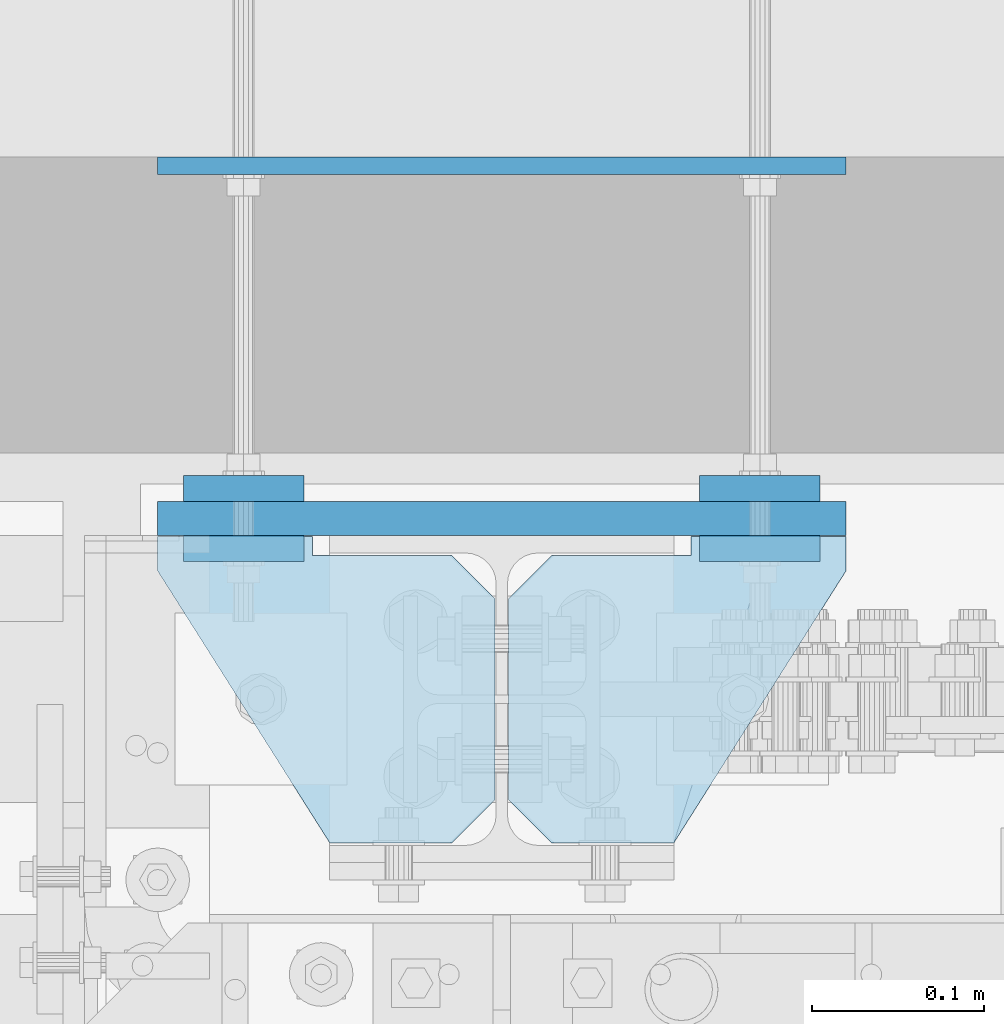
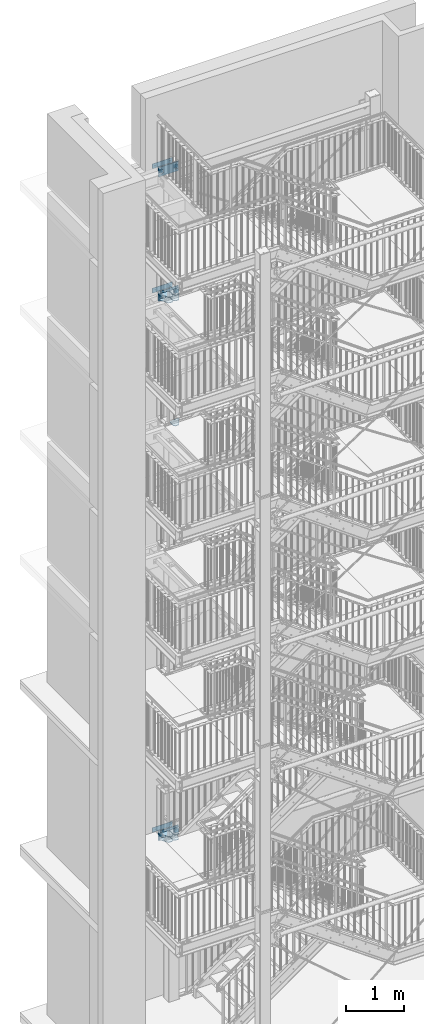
# One storey, part 189 of 831: 27 plates, 42 openings.
"""IFC2X3 building model written with IfcOpenShell, lengths in millimetres."""

from ifc_helpers import new_model, entity, si_unit, converted_unit, frame, frame_2d, origin, origin_with_axes, origin_2d_with_axis, place, context, project, spatial, polyline, circle, outline, extrude, material, layer, layer_set, element, save


model = new_model("IFC2X3")

# Units and contexts
model_context = context("Model", 3, precision=1e-09, world=origin_with_axes())
ifc_project = project(units=[si_unit("LENGTHUNIT", "METRE", prefix="MILLI"), si_unit("AREAUNIT", "SQUARE_METRE"), si_unit("VOLUMEUNIT", "CUBIC_METRE"), converted_unit("PLANEANGLEUNIT", "DEGREE", entity("IfcPlaneAngleMeasure", 0.01745329), si_unit("PLANEANGLEUNIT", "RADIAN"), dimensions=[0, 0, 0, 0, 0, 0, 0])], contexts=[model_context])

# Site, building, storey
site_placement = place(None, origin_with_axes())
site = spatial("IfcSite", under=ifc_project, at=site_placement, Name="Site", CompositionType="ELEMENT")
building_placement = place(site_placement, origin_with_axes())
building = spatial("IfcBuilding", under=site, at=building_placement, Name="Struktur 1", CompositionType="ELEMENT")
storey_placement = place(building_placement, origin_with_axes())
storey = spatial("IfcBuildingStorey", under=building, at=storey_placement, Name="Default Storey", CompositionType="ELEMENT", Elevation=0.0)

# Plate, openings
ifc_material = material(Name="S235JR")
ifc_layer_1 = layer(ifc_material, 10.0)
ifc_layer_set_1 = layer_set([ifc_layer_1], Name="S235JR")
plate_1_placement = place(None, frame((5056.713402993, 7611.236971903, 12449.000000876), z_axis=(0.0, 0.0, -1.0), x_axis=(0.0, -1.0, 0.0)))
plate_1 = element("IfcPlate", 1, at=plate_1_placement, inside=storey, material=ifc_layer_set_1, Name="-", ObjectType="-", context=model_context, shape_type="SweptSolid", body=[
    extrude(outline(polyline([(0.0, 0.0), (20.0, 0.0), (178.0, 100.0), (178.0, 196.0), (11.0, 196.0), (11.0, 90.0), (0.0, 90.0), (0.0, 0.0)])), origin_with_axes(), (0.0, 0.0, -1.0), 10.0),
])
opening_1_placement = place(plate_1_placement, frame((11.0, 196.0, 0.01), z_axis=(0.0, 0.0, 1.0), x_axis=(0.0, -1.0, 0.0)))
element("IfcOpeningElement", 2, at=opening_1_placement, cuts=plate_1, ObjectType="Opening", context=model_context, shape_type="SweptSolid", body=[
    extrude(outline(polyline([(0.0, 0.0), (25.0, 0.0), (0.0, 25.0), (0.0, 0.0)])), origin(), (0.0, 0.0, -1.0), 10.02),
])
opening_2_placement = place(plate_1_placement, frame((178.0, 196.0, 0.01), z_axis=(0.0, 0.0, 1.0), x_axis=(-1.0, 0.0, 0.0)))
element("IfcOpeningElement", 3, at=opening_2_placement, cuts=plate_1, ObjectType="Opening", context=model_context, shape_type="SweptSolid", body=[
    extrude(outline(polyline([(0.0, 0.0), (25.0, 0.0), (0.0, 25.0), (0.0, 0.0)])), origin(), (0.0, 0.0, -1.0), 10.02),
])

# Plate, opening
ifc_layer_2 = layer(ifc_material, 15.0)
ifc_layer_set_2 = layer_set([ifc_layer_2], Name="S235JR")
plate_2_placement = place(None, frame((5006.713403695, 7646.736971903, 15149.0), z_axis=(0.0, 1.0, 0.0), x_axis=(-1.0, 0.0, 0.0)))
plate_2 = element("IfcPlate", 4, at=plate_2_placement, inside=storey, material=ifc_layer_set_2, Name="-", ObjectType="-", context=model_context, shape_type="SweptSolid", body=[
    extrude(outline(polyline([(-35.0, -35.0), (35.0, -35.0), (35.0, 35.0), (-35.0, 35.0), (-35.0, -35.0)])), origin_with_axes(), (0.0, 0.0, -1.0), 15.0),
])
opening_3_placement = place(plate_2_placement, frame((-7.001000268, 0.0, 0.5), z_axis=(0.0, 0.0, 1.0), x_axis=(1.0, 0.0, 0.0)))
element("IfcOpeningElement", 5, at=opening_3_placement, cuts=plate_2, ObjectType="Opening", context=model_context, shape_type="SweptSolid", body=[
    extrude(circle(Radius=7.001, at=frame_2d((7.001, 0.0), x_axis=(1.0, 0.0))), origin(), (0.0, 0.0, -1.0), 16.0),
])

plate_3_placement = place(None, frame((5006.713403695, 7611.736971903, 15149.0), z_axis=(0.0, 1.0, 0.0), x_axis=(-1.0, 0.0, 0.0)))
plate_3 = element("IfcPlate", 6, at=plate_3_placement, inside=storey, material=ifc_layer_set_2, Name="-", ObjectType="-", context=model_context, shape_type="SweptSolid", body=[
    extrude(outline(polyline([(-35.0, -35.0), (35.0, -35.0), (35.0, 35.0), (-35.0, 35.0), (-35.0, -35.0)])), origin_with_axes(), (0.0, 0.0, -1.0), 15.0),
])
opening_4_placement = place(plate_3_placement, frame((-7.001000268, 0.0, 0.5), z_axis=(0.0, 0.0, 1.0), x_axis=(1.0, 0.0, 0.0)))
element("IfcOpeningElement", 7, at=opening_4_placement, cuts=plate_3, ObjectType="Opening", context=model_context, shape_type="SweptSolid", body=[
    extrude(circle(Radius=7.001, at=frame_2d((7.001, 0.0), x_axis=(1.0, 0.0))), origin(), (0.0, 0.0, -1.0), 16.0),
])

# Plate, openings
plate_4_placement = place(None, frame((4856.713402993, 7831.736971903, 15149.000000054), z_axis=(0.0, -1.0, 0.0), x_axis=(1.0, 0.0, 0.0)))
plate_4 = element("IfcPlate", 8, at=plate_4_placement, inside=storey, material=ifc_layer_set_1, Name="-", ObjectType="-", context=model_context, shape_type="SweptSolid", body=[
    extrude(outline(polyline([(-200.0, -50.0), (200.0, -50.0), (200.0, 50.0), (-200.0, 50.0), (-200.0, -50.0)])), origin_with_axes(), (0.0, 0.0, 1.0), 10.0),
])
opening_5_placement = place(plate_4_placement, frame((-3.4e-08, -5.4e-08, -0.5), z_axis=(0.0, 0.0, 1.0), x_axis=(1.0, 0.0, 0.0)))
element("IfcOpeningElement", 9, at=opening_5_placement, cuts=plate_4, ObjectType="Opening", context=model_context, shape_type="SweptSolid", body=[
    extrude(circle(Radius=7.001, at=frame_2d((150.0, 0.0), x_axis=(1.0, 0.0))), origin(), (0.0, 0.0, 1.0), 11.0),
])
opening_6_placement = place(plate_4_placement, frame((-3.4e-08, -5.4e-08, -0.5), z_axis=(0.0, 0.0, 1.0), x_axis=(1.0, 0.0, 0.0)))
element("IfcOpeningElement", 10, at=opening_6_placement, cuts=plate_4, ObjectType="Opening", context=model_context, shape_type="SweptSolid", body=[
    extrude(circle(Radius=7.001, at=frame_2d((-150.0, 0.0), x_axis=(1.0, 0.0))), origin(), (0.0, 0.0, 1.0), 11.0),
])

# Plate, opening
plate_5_placement = place(None, frame((4706.71340296, 7646.736971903, 15149.0), z_axis=(0.0, -1.0, 0.0), x_axis=(1.0, 0.0, 0.0)))
plate_5 = element("IfcPlate", 11, at=plate_5_placement, inside=storey, material=ifc_layer_set_2, Name="-", ObjectType="-", context=model_context, shape_type="SweptSolid", body=[
    extrude(outline(polyline([(-35.0, -35.0), (35.0, -35.0), (35.0, 35.0), (-35.0, 35.0), (-35.0, -35.0)])), origin_with_axes(), (0.0, 0.0, 1.0), 15.0),
])
opening_7_placement = place(plate_5_placement, frame((-2.68e-07, 0.0, -0.5), z_axis=(0.0, 0.0, 1.0), x_axis=(1.0, 0.0, 0.0)))
element("IfcOpeningElement", 12, at=opening_7_placement, cuts=plate_5, ObjectType="Opening", context=model_context, shape_type="SweptSolid", body=[
    extrude(circle(Radius=7.001, at=origin_2d_with_axis()), origin(), (0.0, 0.0, 1.0), 16.0),
])

plate_6_placement = place(None, frame((4706.71340296, 7611.736971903, 15149.0), z_axis=(0.0, -1.0, 0.0), x_axis=(1.0, 0.0, 0.0)))
plate_6 = element("IfcPlate", 13, at=plate_6_placement, inside=storey, material=ifc_layer_set_2, Name="-", ObjectType="-", context=model_context, shape_type="SweptSolid", body=[
    extrude(outline(polyline([(-35.0, -35.0), (35.0, -35.0), (35.0, 35.0), (-35.0, 35.0), (-35.0, -35.0)])), origin_with_axes(), (0.0, 0.0, 1.0), 15.0),
])
opening_8_placement = place(plate_6_placement, frame((-2.68e-07, 0.0, -0.5), z_axis=(0.0, 0.0, 1.0), x_axis=(1.0, 0.0, 0.0)))
element("IfcOpeningElement", 14, at=opening_8_placement, cuts=plate_6, ObjectType="Opening", context=model_context, shape_type="SweptSolid", body=[
    extrude(circle(Radius=7.001, at=origin_2d_with_axis()), origin(), (0.0, 0.0, 1.0), 16.0),
])

# Plate, openings
plate_7_placement = place(None, frame((5056.713402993, 7611.236971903, 15084.000000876), z_axis=(0.0, 0.0, -1.0), x_axis=(0.0, -1.0, 0.0)))
plate_7 = element("IfcPlate", 15, at=plate_7_placement, inside=storey, material=ifc_layer_set_1, Name="-", ObjectType="-", context=model_context, shape_type="SweptSolid", body=[
    extrude(outline(polyline([(0.0, 0.0), (20.0, 0.0), (178.0, 100.0), (178.0, 196.0), (11.0, 196.0), (11.0, 90.0), (0.0, 90.0), (0.0, 0.0)])), origin_with_axes(), (0.0, 0.0, -1.0), 10.0),
])
opening_9_placement = place(plate_7_placement, frame((11.0, 196.0, 0.01), z_axis=(0.0, 0.0, 1.0), x_axis=(0.0, -1.0, 0.0)))
element("IfcOpeningElement", 16, at=opening_9_placement, cuts=plate_7, ObjectType="Opening", context=model_context, shape_type="SweptSolid", body=[
    extrude(outline(polyline([(0.0, 0.0), (25.0, 0.0), (0.0, 25.0), (0.0, 0.0)])), origin(), (0.0, 0.0, -1.0), 10.02),
])
opening_10_placement = place(plate_7_placement, frame((178.0, 196.0, 0.01), z_axis=(0.0, 0.0, 1.0), x_axis=(-1.0, 0.0, 0.0)))
element("IfcOpeningElement", 17, at=opening_10_placement, cuts=plate_7, ObjectType="Opening", context=model_context, shape_type="SweptSolid", body=[
    extrude(outline(polyline([(0.0, 0.0), (25.0, 0.0), (0.0, 25.0), (0.0, 0.0)])), origin(), (0.0, 0.0, -1.0), 10.02),
])

plate_8_placement = place(None, frame((5056.713402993, 7611.236971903, 15204.000000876), z_axis=(0.0, 0.0, -1.0), x_axis=(0.0, -1.0, 0.0)))
plate_8 = element("IfcPlate", 18, at=plate_8_placement, inside=storey, material=ifc_layer_set_1, Name="-", ObjectType="-", context=model_context, shape_type="SweptSolid", body=[
    extrude(outline(polyline([(0.0, 0.0), (20.0, 0.0), (178.0, 100.0), (178.0, 196.0), (11.0, 196.0), (11.0, 90.0), (0.0, 90.0), (0.0, 0.0)])), origin_with_axes(), (0.0, 0.0, -1.0), 10.0),
])
opening_11_placement = place(plate_8_placement, frame((11.0, 196.0, 0.01), z_axis=(0.0, 0.0, 1.0), x_axis=(0.0, -1.0, 0.0)))
element("IfcOpeningElement", 19, at=opening_11_placement, cuts=plate_8, ObjectType="Opening", context=model_context, shape_type="SweptSolid", body=[
    extrude(outline(polyline([(0.0, 0.0), (25.0, 0.0), (0.0, 25.0), (0.0, 0.0)])), origin(), (0.0, 0.0, -1.0), 10.02),
])
opening_12_placement = place(plate_8_placement, frame((178.0, 196.0, 0.01), z_axis=(0.0, 0.0, 1.0), x_axis=(-1.0, 0.0, 0.0)))
element("IfcOpeningElement", 20, at=opening_12_placement, cuts=plate_8, ObjectType="Opening", context=model_context, shape_type="SweptSolid", body=[
    extrude(outline(polyline([(0.0, 0.0), (25.0, 0.0), (0.0, 25.0), (0.0, 0.0)])), origin(), (0.0, 0.0, -1.0), 10.02),
])

plate_9_placement = place(None, frame((4656.713402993, 7611.236971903, 15084.000000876), z_axis=(0.0, 0.0, 1.0), x_axis=(0.0, -1.0, 0.0)))
plate_9 = element("IfcPlate", 21, at=plate_9_placement, inside=storey, material=ifc_layer_set_1, Name="-", ObjectType="-", context=model_context, shape_type="SweptSolid", body=[
    extrude(outline(polyline([(0.0, 0.0), (20.0, 0.0), (178.0, 100.0), (178.0, 196.0), (11.0, 196.0), (11.0, 90.0), (0.0, 90.0), (0.0, 0.0)])), origin_with_axes(), (0.0, 0.0, 1.0), 10.0),
])
opening_13_placement = place(plate_9_placement, frame((0.0, 0.0, -0.01), z_axis=(0.0, 0.0, 1.0), x_axis=(1.0, 0.0, 0.0)))
element("IfcOpeningElement", 22, at=opening_13_placement, cuts=plate_9, ObjectType="Opening", context=model_context, shape_type="SweptSolid", body=[
    extrude(outline(polyline([(11.0, 196.0), (11.0, 171.0), (36.0, 196.0), (11.0, 196.0)])), origin(), (0.0, 0.0, 1.0), 10.02),
])
opening_14_placement = place(plate_9_placement, frame((0.0, 0.0, -0.01), z_axis=(0.0, 0.0, 1.0), x_axis=(1.0, 0.0, 0.0)))
element("IfcOpeningElement", 23, at=opening_14_placement, cuts=plate_9, ObjectType="Opening", context=model_context, shape_type="SweptSolid", body=[
    extrude(outline(polyline([(178.0, 196.0), (153.0, 196.0), (178.0, 171.0), (178.0, 196.0)])), origin(), (0.0, 0.0, 1.0), 10.02),
])

plate_10_placement = place(None, frame((4656.713402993, 7611.236971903, 15204.000000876), z_axis=(0.0, 0.0, 1.0), x_axis=(0.0, -1.0, 0.0)))
plate_10 = element("IfcPlate", 24, at=plate_10_placement, inside=storey, material=ifc_layer_set_1, Name="-", ObjectType="-", context=model_context, shape_type="SweptSolid", body=[
    extrude(outline(polyline([(0.0, 0.0), (20.0, 0.0), (178.0, 100.0), (178.0, 196.0), (11.0, 196.0), (11.0, 90.0), (0.0, 90.0), (0.0, 0.0)])), origin_with_axes(), (0.0, 0.0, 1.0), 10.0),
])
opening_15_placement = place(plate_10_placement, frame((0.0, 0.0, -0.01), z_axis=(0.0, 0.0, 1.0), x_axis=(1.0, 0.0, 0.0)))
element("IfcOpeningElement", 25, at=opening_15_placement, cuts=plate_10, ObjectType="Opening", context=model_context, shape_type="SweptSolid", body=[
    extrude(outline(polyline([(11.0, 196.0), (11.0, 171.0), (36.0, 196.0), (11.0, 196.0)])), origin(), (0.0, 0.0, 1.0), 10.02),
])
opening_16_placement = place(plate_10_placement, frame((0.0, 0.0, -0.01), z_axis=(0.0, 0.0, 1.0), x_axis=(1.0, 0.0, 0.0)))
element("IfcOpeningElement", 26, at=opening_16_placement, cuts=plate_10, ObjectType="Opening", context=model_context, shape_type="SweptSolid", body=[
    extrude(outline(polyline([(178.0, 196.0), (153.0, 196.0), (178.0, 171.0), (178.0, 196.0)])), origin(), (0.0, 0.0, 1.0), 10.02),
])

ifc_layer_3 = layer(ifc_material, 20.0)
ifc_layer_set_3 = layer_set([ifc_layer_3], Name="S235JR")
plate_11_placement = place(None, frame((4856.713402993, 7631.736971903, 15149.000000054), z_axis=(0.0, -1.0, 0.0), x_axis=(1.0, 0.0, 0.0)))
plate_11 = element("IfcPlate", 27, at=plate_11_placement, inside=storey, material=ifc_layer_set_3, Name="-", ObjectType="-", context=model_context, shape_type="SweptSolid", body=[
    extrude(outline(polyline([(-200.0, -100.0), (200.0, -100.0), (200.0, 100.0), (-200.0, 100.0), (-200.0, -100.0)])), origin_with_axes(), (0.0, 0.0, 1.0), 20.0),
])
opening_17_placement = place(plate_11_placement, frame((-3.4e-08, -5.4e-08, -0.5), z_axis=(0.0, 0.0, 1.0), x_axis=(1.0, 0.0, 0.0)))
element("IfcOpeningElement", 28, at=opening_17_placement, cuts=plate_11, ObjectType="Opening", context=model_context, shape_type="SweptSolid", body=[
    extrude(circle(Radius=20.001, at=frame_2d((150.0, 0.0), x_axis=(1.0, 0.0))), origin(), (0.0, 0.0, 1.0), 21.0),
])
opening_18_placement = place(plate_11_placement, frame((-3.4e-08, -5.4e-08, -0.5), z_axis=(0.0, 0.0, 1.0), x_axis=(1.0, 0.0, 0.0)))
element("IfcOpeningElement", 29, at=opening_18_placement, cuts=plate_11, ObjectType="Opening", context=model_context, shape_type="SweptSolid", body=[
    extrude(circle(Radius=20.001, at=frame_2d((-150.0, 0.0), x_axis=(1.0, 0.0))), origin(), (0.0, 0.0, 1.0), 21.0),
])

# Plate, opening
plate_12_placement = place(None, frame((4706.71340296, 7611.736971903, 17769.0), z_axis=(0.0, -1.0, 0.0), x_axis=(1.0, 0.0, 0.0)))
plate_12 = element("IfcPlate", 30, at=plate_12_placement, inside=storey, material=ifc_layer_set_2, Name="-", ObjectType="-", context=model_context, shape_type="SweptSolid", body=[
    extrude(outline(polyline([(-35.0, -35.0), (35.0, -35.0), (35.0, 35.0), (-35.0, 35.0), (-35.0, -35.0)])), origin_with_axes(), (0.0, 0.0, 1.0), 15.0),
])
opening_19_placement = place(plate_12_placement, frame((-2.68e-07, 0.0, -0.5), z_axis=(0.0, 0.0, 1.0), x_axis=(1.0, 0.0, 0.0)))
element("IfcOpeningElement", 31, at=opening_19_placement, cuts=plate_12, ObjectType="Opening", context=model_context, shape_type="SweptSolid", body=[
    extrude(circle(Radius=7.001, at=origin_2d_with_axis()), origin(), (0.0, 0.0, 1.0), 16.0),
])

plate_13_placement = place(None, frame((4706.71340296, 7646.736971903, 17769.0), z_axis=(0.0, -1.0, 0.0), x_axis=(1.0, 0.0, 0.0)))
plate_13 = element("IfcPlate", 32, at=plate_13_placement, inside=storey, material=ifc_layer_set_2, Name="-", ObjectType="-", context=model_context, shape_type="SweptSolid", body=[
    extrude(outline(polyline([(-35.0, -35.0), (35.0, -35.0), (35.0, 35.0), (-35.0, 35.0), (-35.0, -35.0)])), origin_with_axes(), (0.0, 0.0, 1.0), 15.0),
])
opening_20_placement = place(plate_13_placement, frame((-2.68e-07, 0.0, -0.5), z_axis=(0.0, 0.0, 1.0), x_axis=(1.0, 0.0, 0.0)))
element("IfcOpeningElement", 33, at=opening_20_placement, cuts=plate_13, ObjectType="Opening", context=model_context, shape_type="SweptSolid", body=[
    extrude(circle(Radius=7.001, at=origin_2d_with_axis()), origin(), (0.0, 0.0, 1.0), 16.0),
])

# Plate, openings
plate_14_placement = place(None, frame((4856.713402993, 7831.736971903, 17769.000000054), z_axis=(0.0, -1.0, 0.0), x_axis=(1.0, 0.0, 0.0)))
plate_14 = element("IfcPlate", 34, at=plate_14_placement, inside=storey, material=ifc_layer_set_1, Name="-", ObjectType="-", context=model_context, shape_type="SweptSolid", body=[
    extrude(outline(polyline([(-200.0, -50.0), (200.0, -50.0), (200.0, 50.0), (-200.0, 50.0), (-200.0, -50.0)])), origin_with_axes(), (0.0, 0.0, 1.0), 10.0),
])
opening_21_placement = place(plate_14_placement, frame((-3.4e-08, -5.4e-08, -0.5), z_axis=(0.0, 0.0, 1.0), x_axis=(1.0, 0.0, 0.0)))
element("IfcOpeningElement", 35, at=opening_21_placement, cuts=plate_14, ObjectType="Opening", context=model_context, shape_type="SweptSolid", body=[
    extrude(circle(Radius=7.001, at=frame_2d((150.0, 0.0), x_axis=(1.0, 0.0))), origin(), (0.0, 0.0, 1.0), 11.0),
])
opening_22_placement = place(plate_14_placement, frame((-3.4e-08, -5.4e-08, -0.5), z_axis=(0.0, 0.0, 1.0), x_axis=(1.0, 0.0, 0.0)))
element("IfcOpeningElement", 36, at=opening_22_placement, cuts=plate_14, ObjectType="Opening", context=model_context, shape_type="SweptSolid", body=[
    extrude(circle(Radius=7.001, at=frame_2d((-150.0, 0.0), x_axis=(1.0, 0.0))), origin(), (0.0, 0.0, 1.0), 11.0),
])

# Plate, opening
plate_15_placement = place(None, frame((5006.713403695, 7611.736971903, 17769.0), z_axis=(0.0, 1.0, 0.0), x_axis=(-1.0, 0.0, 0.0)))
plate_15 = element("IfcPlate", 37, at=plate_15_placement, inside=storey, material=ifc_layer_set_2, Name="-", ObjectType="-", context=model_context, shape_type="SweptSolid", body=[
    extrude(outline(polyline([(-35.0, -35.0), (35.0, -35.0), (35.0, 35.0), (-35.0, 35.0), (-35.0, -35.0)])), origin_with_axes(), (0.0, 0.0, -1.0), 15.0),
])
opening_23_placement = place(plate_15_placement, frame((-7.001000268, 0.0, 0.5), z_axis=(0.0, 0.0, 1.0), x_axis=(1.0, 0.0, 0.0)))
element("IfcOpeningElement", 38, at=opening_23_placement, cuts=plate_15, ObjectType="Opening", context=model_context, shape_type="SweptSolid", body=[
    extrude(circle(Radius=7.001, at=frame_2d((7.001, 0.0), x_axis=(1.0, 0.0))), origin(), (0.0, 0.0, -1.0), 16.0),
])

plate_16_placement = place(None, frame((5006.713403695, 7646.736971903, 17769.0), z_axis=(0.0, 1.0, 0.0), x_axis=(-1.0, 0.0, 0.0)))
plate_16 = element("IfcPlate", 39, at=plate_16_placement, inside=storey, material=ifc_layer_set_2, Name="-", ObjectType="-", context=model_context, shape_type="SweptSolid", body=[
    extrude(outline(polyline([(-35.0, -35.0), (35.0, -35.0), (35.0, 35.0), (-35.0, 35.0), (-35.0, -35.0)])), origin_with_axes(), (0.0, 0.0, -1.0), 15.0),
])
opening_24_placement = place(plate_16_placement, frame((-7.001000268, 0.0, 0.5), z_axis=(0.0, 0.0, 1.0), x_axis=(1.0, 0.0, 0.0)))
element("IfcOpeningElement", 40, at=opening_24_placement, cuts=plate_16, ObjectType="Opening", context=model_context, shape_type="SweptSolid", body=[
    extrude(circle(Radius=7.001, at=frame_2d((7.001, 0.0), x_axis=(1.0, 0.0))), origin(), (0.0, 0.0, -1.0), 16.0),
])

# Plate, openings
plate_17_placement = place(None, frame((4856.713402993, 7631.736971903, 17769.000000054), z_axis=(0.0, -1.0, 0.0), x_axis=(1.0, 0.0, 0.0)))
plate_17 = element("IfcPlate", 41, at=plate_17_placement, inside=storey, material=ifc_layer_set_3, Name="-", ObjectType="-", context=model_context, shape_type="SweptSolid", body=[
    extrude(outline(polyline([(-200.0, -100.0), (200.0, -100.0), (200.0, 100.0), (-200.0, 100.0), (-200.0, -100.0)])), origin_with_axes(), (0.0, 0.0, 1.0), 20.0),
])
opening_25_placement = place(plate_17_placement, frame((-3.4e-08, -5.4e-08, -0.5), z_axis=(0.0, 0.0, 1.0), x_axis=(1.0, 0.0, 0.0)))
element("IfcOpeningElement", 42, at=opening_25_placement, cuts=plate_17, ObjectType="Opening", context=model_context, shape_type="SweptSolid", body=[
    extrude(circle(Radius=20.001, at=frame_2d((150.0, 0.0), x_axis=(1.0, 0.0))), origin(), (0.0, 0.0, 1.0), 21.0),
])
opening_26_placement = place(plate_17_placement, frame((-3.4e-08, -5.4e-08, -0.5), z_axis=(0.0, 0.0, 1.0), x_axis=(1.0, 0.0, 0.0)))
element("IfcOpeningElement", 43, at=opening_26_placement, cuts=plate_17, ObjectType="Opening", context=model_context, shape_type="SweptSolid", body=[
    extrude(circle(Radius=20.001, at=frame_2d((-150.0, 0.0), x_axis=(1.0, 0.0))), origin(), (0.0, 0.0, 1.0), 21.0),
])

# Plate, opening
plate_18_placement = place(None, frame((5006.713403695, 7646.736971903, 3782.0), z_axis=(0.0, 1.0, 0.0), x_axis=(-1.0, 0.0, 0.0)))
plate_18 = element("IfcPlate", 44, at=plate_18_placement, inside=storey, material=ifc_layer_set_2, Name="-", ObjectType="-", context=model_context, shape_type="SweptSolid", body=[
    extrude(outline(polyline([(-35.0, -35.0), (35.0, -35.0), (35.0, 35.0), (-35.0, 35.0), (-35.0, -35.0)])), origin_with_axes(), (0.0, 0.0, -1.0), 15.0),
])
opening_27_placement = place(plate_18_placement, frame((-7.001000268, 0.0, 0.5), z_axis=(0.0, 0.0, 1.0), x_axis=(1.0, 0.0, 0.0)))
element("IfcOpeningElement", 45, at=opening_27_placement, cuts=plate_18, ObjectType="Opening", context=model_context, shape_type="SweptSolid", body=[
    extrude(circle(Radius=7.001, at=frame_2d((7.001, 0.0), x_axis=(1.0, 0.0))), origin(), (0.0, 0.0, -1.0), 16.0),
])

plate_19_placement = place(None, frame((5006.713403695, 7611.736971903, 3782.0), z_axis=(0.0, 1.0, 0.0), x_axis=(-1.0, 0.0, 0.0)))
plate_19 = element("IfcPlate", 46, at=plate_19_placement, inside=storey, material=ifc_layer_set_2, Name="-", ObjectType="-", context=model_context, shape_type="SweptSolid", body=[
    extrude(outline(polyline([(-35.0, -35.0), (35.0, -35.0), (35.0, 35.0), (-35.0, 35.0), (-35.0, -35.0)])), origin_with_axes(), (0.0, 0.0, -1.0), 15.0),
])
opening_28_placement = place(plate_19_placement, frame((-7.001000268, 0.0, 0.5), z_axis=(0.0, 0.0, 1.0), x_axis=(1.0, 0.0, 0.0)))
element("IfcOpeningElement", 47, at=opening_28_placement, cuts=plate_19, ObjectType="Opening", context=model_context, shape_type="SweptSolid", body=[
    extrude(circle(Radius=7.001, at=frame_2d((7.001, 0.0), x_axis=(1.0, 0.0))), origin(), (0.0, 0.0, -1.0), 16.0),
])

# Plate, openings
plate_20_placement = place(None, frame((4856.713402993, 7831.736971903, 3782.000000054), z_axis=(0.0, -1.0, 0.0), x_axis=(1.0, 0.0, 0.0)))
plate_20 = element("IfcPlate", 48, at=plate_20_placement, inside=storey, material=ifc_layer_set_1, Name="-", ObjectType="-", context=model_context, shape_type="SweptSolid", body=[
    extrude(outline(polyline([(-200.0, -50.0), (200.0, -50.0), (200.0, 50.0), (-200.0, 50.0), (-200.0, -50.0)])), origin_with_axes(), (0.0, 0.0, 1.0), 10.0),
])
opening_29_placement = place(plate_20_placement, frame((-3.4e-08, -5.4e-08, -0.5), z_axis=(0.0, 0.0, 1.0), x_axis=(1.0, 0.0, 0.0)))
element("IfcOpeningElement", 49, at=opening_29_placement, cuts=plate_20, ObjectType="Opening", context=model_context, shape_type="SweptSolid", body=[
    extrude(circle(Radius=7.001, at=frame_2d((150.0, 0.0), x_axis=(1.0, 0.0))), origin(), (0.0, 0.0, 1.0), 11.0),
])
opening_30_placement = place(plate_20_placement, frame((-3.4e-08, -5.4e-08, -0.5), z_axis=(0.0, 0.0, 1.0), x_axis=(1.0, 0.0, 0.0)))
element("IfcOpeningElement", 50, at=opening_30_placement, cuts=plate_20, ObjectType="Opening", context=model_context, shape_type="SweptSolid", body=[
    extrude(circle(Radius=7.001, at=frame_2d((-150.0, 0.0), x_axis=(1.0, 0.0))), origin(), (0.0, 0.0, 1.0), 11.0),
])

# Plate, opening
plate_21_placement = place(None, frame((4706.71340296, 7646.736971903, 3782.0), z_axis=(0.0, -1.0, 0.0), x_axis=(1.0, 0.0, 0.0)))
plate_21 = element("IfcPlate", 51, at=plate_21_placement, inside=storey, material=ifc_layer_set_2, Name="-", ObjectType="-", context=model_context, shape_type="SweptSolid", body=[
    extrude(outline(polyline([(-35.0, -35.0), (35.0, -35.0), (35.0, 35.0), (-35.0, 35.0), (-35.0, -35.0)])), origin_with_axes(), (0.0, 0.0, 1.0), 15.0),
])
opening_31_placement = place(plate_21_placement, frame((-2.68e-07, 0.0, -0.5), z_axis=(0.0, 0.0, 1.0), x_axis=(1.0, 0.0, 0.0)))
element("IfcOpeningElement", 52, at=opening_31_placement, cuts=plate_21, ObjectType="Opening", context=model_context, shape_type="SweptSolid", body=[
    extrude(circle(Radius=7.001, at=origin_2d_with_axis()), origin(), (0.0, 0.0, 1.0), 16.0),
])

plate_22_placement = place(None, frame((4706.71340296, 7611.736971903, 3782.0), z_axis=(0.0, -1.0, 0.0), x_axis=(1.0, 0.0, 0.0)))
plate_22 = element("IfcPlate", 53, at=plate_22_placement, inside=storey, material=ifc_layer_set_2, Name="-", ObjectType="-", context=model_context, shape_type="SweptSolid", body=[
    extrude(outline(polyline([(-35.0, -35.0), (35.0, -35.0), (35.0, 35.0), (-35.0, 35.0), (-35.0, -35.0)])), origin_with_axes(), (0.0, 0.0, 1.0), 15.0),
])
opening_32_placement = place(plate_22_placement, frame((-2.68e-07, 0.0, -0.5), z_axis=(0.0, 0.0, 1.0), x_axis=(1.0, 0.0, 0.0)))
element("IfcOpeningElement", 54, at=opening_32_placement, cuts=plate_22, ObjectType="Opening", context=model_context, shape_type="SweptSolid", body=[
    extrude(circle(Radius=7.001, at=origin_2d_with_axis()), origin(), (0.0, 0.0, 1.0), 16.0),
])

# Plate, openings
plate_23_placement = place(None, frame((5056.713402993, 7611.236971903, 3717.000000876), z_axis=(0.0, 0.0, -1.0), x_axis=(0.0, -1.0, 0.0)))
plate_23 = element("IfcPlate", 55, at=plate_23_placement, inside=storey, material=ifc_layer_set_1, Name="-", ObjectType="-", context=model_context, shape_type="SweptSolid", body=[
    extrude(outline(polyline([(0.0, 49.919652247), (20.0, 49.999999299), (178.0, 100.0), (178.0, 196.0), (11.0, 196.0), (11.0, 90.0), (0.0, 90.0), (0.0, 49.919652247)])), origin_with_axes(), (0.0, 0.0, -1.0), 10.0),
])
opening_33_placement = place(plate_23_placement, frame((11.0, 196.0, 0.01), z_axis=(0.0, 0.0, 1.0), x_axis=(0.0, -1.0, 0.0)))
element("IfcOpeningElement", 56, at=opening_33_placement, cuts=plate_23, ObjectType="Opening", context=model_context, shape_type="SweptSolid", body=[
    extrude(outline(polyline([(0.0, 0.0), (25.0, 0.0), (0.0, 25.0), (0.0, 0.0)])), origin(), (0.0, 0.0, -1.0), 10.02),
])
opening_34_placement = place(plate_23_placement, frame((178.0, 196.0, 0.01), z_axis=(0.0, 0.0, 1.0), x_axis=(-1.0, 0.0, 0.0)))
element("IfcOpeningElement", 57, at=opening_34_placement, cuts=plate_23, ObjectType="Opening", context=model_context, shape_type="SweptSolid", body=[
    extrude(outline(polyline([(0.0, 0.0), (25.0, 0.0), (0.0, 25.0), (0.0, 0.0)])), origin(), (0.0, 0.0, -1.0), 10.02),
])

plate_24_placement = place(None, frame((5056.713402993, 7611.236971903, 3837.000000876), z_axis=(0.0, 0.0, -1.0), x_axis=(0.0, -1.0, 0.0)))
plate_24 = element("IfcPlate", 58, at=plate_24_placement, inside=storey, material=ifc_layer_set_1, Name="-", ObjectType="-", context=model_context, shape_type="SweptSolid", body=[
    extrude(outline(polyline([(0.0, 0.0), (20.0, 0.0), (178.0, 100.0), (178.0, 196.0), (11.0, 196.0), (11.0, 90.0), (0.0, 90.0), (0.0, 0.0)])), origin_with_axes(), (0.0, 0.0, -1.0), 10.0),
])
opening_35_placement = place(plate_24_placement, frame((11.0, 196.0, 0.01), z_axis=(0.0, 0.0, 1.0), x_axis=(0.0, -1.0, 0.0)))
element("IfcOpeningElement", 59, at=opening_35_placement, cuts=plate_24, ObjectType="Opening", context=model_context, shape_type="SweptSolid", body=[
    extrude(outline(polyline([(0.0, 0.0), (25.0, 0.0), (0.0, 25.0), (0.0, 0.0)])), origin(), (0.0, 0.0, -1.0), 10.02),
])
opening_36_placement = place(plate_24_placement, frame((178.0, 196.0, 0.01), z_axis=(0.0, 0.0, 1.0), x_axis=(-1.0, 0.0, 0.0)))
element("IfcOpeningElement", 60, at=opening_36_placement, cuts=plate_24, ObjectType="Opening", context=model_context, shape_type="SweptSolid", body=[
    extrude(outline(polyline([(0.0, 0.0), (25.0, 0.0), (0.0, 25.0), (0.0, 0.0)])), origin(), (0.0, 0.0, -1.0), 10.02),
])

plate_25_placement = place(None, frame((4656.713402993, 7611.236971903, 3717.000000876), z_axis=(0.0, 0.0, 1.0), x_axis=(0.0, -1.0, 0.0)))
plate_25 = element("IfcPlate", 61, at=plate_25_placement, inside=storey, material=ifc_layer_set_1, Name="-", ObjectType="-", context=model_context, shape_type="SweptSolid", body=[
    extrude(outline(polyline([(0.0, 0.0), (20.0, 0.0), (178.0, 100.0), (178.0, 196.0), (11.0, 196.0), (11.0, 90.0), (0.0, 90.0), (0.0, 0.0)])), origin_with_axes(), (0.0, 0.0, 1.0), 10.0),
])
opening_37_placement = place(plate_25_placement, frame((0.0, 0.0, -0.01), z_axis=(0.0, 0.0, 1.0), x_axis=(1.0, 0.0, 0.0)))
element("IfcOpeningElement", 62, at=opening_37_placement, cuts=plate_25, ObjectType="Opening", context=model_context, shape_type="SweptSolid", body=[
    extrude(outline(polyline([(11.0, 196.0), (11.0, 171.0), (36.0, 196.0), (11.0, 196.0)])), origin(), (0.0, 0.0, 1.0), 10.02),
])
opening_38_placement = place(plate_25_placement, frame((0.0, 0.0, -0.01), z_axis=(0.0, 0.0, 1.0), x_axis=(1.0, 0.0, 0.0)))
element("IfcOpeningElement", 63, at=opening_38_placement, cuts=plate_25, ObjectType="Opening", context=model_context, shape_type="SweptSolid", body=[
    extrude(outline(polyline([(178.0, 196.0), (153.0, 196.0), (178.0, 171.0), (178.0, 196.0)])), origin(), (0.0, 0.0, 1.0), 10.02),
])

plate_26_placement = place(None, frame((4656.713402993, 7611.236971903, 3837.000000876), z_axis=(0.0, 0.0, 1.0), x_axis=(0.0, -1.0, 0.0)))
plate_26 = element("IfcPlate", 64, at=plate_26_placement, inside=storey, material=ifc_layer_set_1, Name="-", ObjectType="-", context=model_context, shape_type="SweptSolid", body=[
    extrude(outline(polyline([(0.0, 0.0), (20.0, 0.0), (178.0, 100.0), (178.0, 196.0), (11.0, 196.0), (11.0, 90.0), (0.0, 90.0), (0.0, 0.0)])), origin_with_axes(), (0.0, 0.0, 1.0), 10.0),
])
opening_39_placement = place(plate_26_placement, frame((0.0, 0.0, -0.01), z_axis=(0.0, 0.0, 1.0), x_axis=(1.0, 0.0, 0.0)))
element("IfcOpeningElement", 65, at=opening_39_placement, cuts=plate_26, ObjectType="Opening", context=model_context, shape_type="SweptSolid", body=[
    extrude(outline(polyline([(11.0, 196.0), (11.0, 171.0), (36.0, 196.0), (11.0, 196.0)])), origin(), (0.0, 0.0, 1.0), 10.02),
])
opening_40_placement = place(plate_26_placement, frame((0.0, 0.0, -0.01), z_axis=(0.0, 0.0, 1.0), x_axis=(1.0, 0.0, 0.0)))
element("IfcOpeningElement", 66, at=opening_40_placement, cuts=plate_26, ObjectType="Opening", context=model_context, shape_type="SweptSolid", body=[
    extrude(outline(polyline([(178.0, 196.0), (153.0, 196.0), (178.0, 171.0), (178.0, 196.0)])), origin(), (0.0, 0.0, 1.0), 10.02),
])

plate_27_placement = place(None, frame((4856.713402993, 7631.736971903, 3782.000000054), z_axis=(0.0, -1.0, 0.0), x_axis=(1.0, 0.0, 0.0)))
plate_27 = element("IfcPlate", 67, at=plate_27_placement, inside=storey, material=ifc_layer_set_3, Name="-", ObjectType="-", context=model_context, shape_type="SweptSolid", body=[
    extrude(outline(polyline([(-200.0, -100.0), (200.0, -100.0), (200.0, 100.0), (-200.0, 100.0), (-200.0, -100.0)])), origin_with_axes(), (0.0, 0.0, 1.0), 20.0),
])
opening_41_placement = place(plate_27_placement, frame((-3.4e-08, -5.4e-08, -0.5), z_axis=(0.0, 0.0, 1.0), x_axis=(1.0, 0.0, 0.0)))
element("IfcOpeningElement", 68, at=opening_41_placement, cuts=plate_27, ObjectType="Opening", context=model_context, shape_type="SweptSolid", body=[
    extrude(circle(Radius=20.001, at=frame_2d((150.0, 0.0), x_axis=(1.0, 0.0))), origin(), (0.0, 0.0, 1.0), 21.0),
])
opening_42_placement = place(plate_27_placement, frame((-3.4e-08, -5.4e-08, -0.5), z_axis=(0.0, 0.0, 1.0), x_axis=(1.0, 0.0, 0.0)))
element("IfcOpeningElement", 69, at=opening_42_placement, cuts=plate_27, ObjectType="Opening", context=model_context, shape_type="SweptSolid", body=[
    extrude(circle(Radius=20.001, at=frame_2d((-150.0, 0.0), x_axis=(1.0, 0.0))), origin(), (0.0, 0.0, 1.0), 21.0),
])

save(model, "model.ifc")
